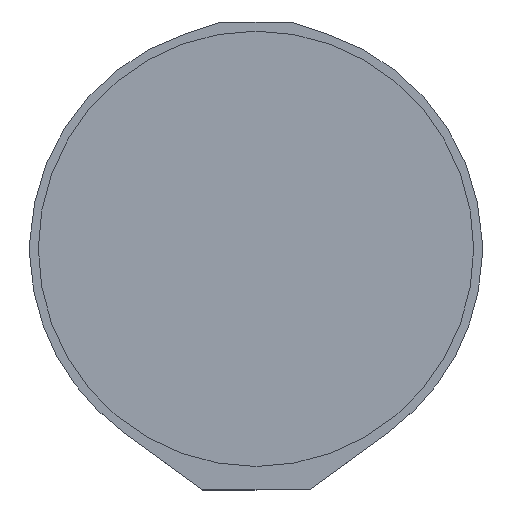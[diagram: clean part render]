
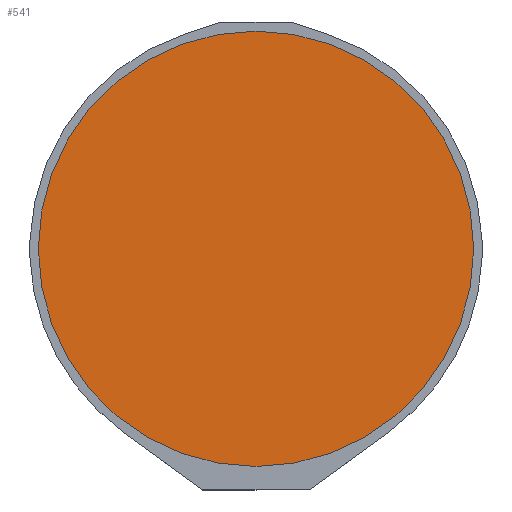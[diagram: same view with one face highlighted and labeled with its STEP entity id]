
A CAD part, top view. The second image highlights one B-rep face of the part: STEP entity #541.
In plain terms, the highlighted planar face has unit normal (0, 0, 1).
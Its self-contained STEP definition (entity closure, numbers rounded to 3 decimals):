
#85 = VERTEX_POINT ( 'NONE', #736 ) ;
#113 = ORIENTED_EDGE ( 'NONE', *, *, #206, .T. ) ;
#118 = AXIS2_PLACEMENT_3D ( 'NONE', #629, #343, #338 ) ;
#200 = AXIS2_PLACEMENT_3D ( 'NONE', #488, #540, #426 ) ;
#206 = EDGE_CURVE ( 'NONE', #85, #355, #332, .T. ) ;
#211 = EDGE_LOOP ( 'NONE', ( #686, #113 ) ) ;
#212 = CARTESIAN_POINT ( 'NONE',  ( 0., 0., 1.97 ) ) ;
#309 = PLANE ( 'NONE',  #200 ) ;
#320 = AXIS2_PLACEMENT_3D ( 'NONE', #212, #471, #521 ) ;
#332 = CIRCLE ( 'NONE', #118, 63.5 ) ;
#338 = DIRECTION ( 'NONE',  ( 1., 0., 0. ) ) ;
#343 = DIRECTION ( 'NONE',  ( 0., 0., 1. ) ) ;
#355 = VERTEX_POINT ( 'NONE', #589 ) ;
#426 = DIRECTION ( 'NONE',  ( 1., 0., 0. ) ) ;
#471 = DIRECTION ( 'NONE',  ( 0., 0., 1. ) ) ;
#488 = CARTESIAN_POINT ( 'NONE',  ( 0., 0., 1.97 ) ) ;
#521 = DIRECTION ( 'NONE',  ( 1., 0., 0. ) ) ;
#540 = DIRECTION ( 'NONE',  ( 0., 0., 1. ) ) ;
#541 = ADVANCED_FACE ( 'NONE', ( #610 ), #309, .T. ) ;
#564 = EDGE_CURVE ( 'NONE', #355, #85, #682, .T. ) ;
#589 = CARTESIAN_POINT ( 'NONE',  ( 63.5, 0., 1.97 ) ) ;
#610 = FACE_OUTER_BOUND ( 'NONE', #211, .T. ) ;
#629 = CARTESIAN_POINT ( 'NONE',  ( 0., 0., 1.97 ) ) ;
#682 = CIRCLE ( 'NONE', #320, 63.5 ) ;
#686 = ORIENTED_EDGE ( 'NONE', *, *, #564, .T. ) ;
#736 = CARTESIAN_POINT ( 'NONE',  ( -63.5, 0., 1.97 ) ) ;
